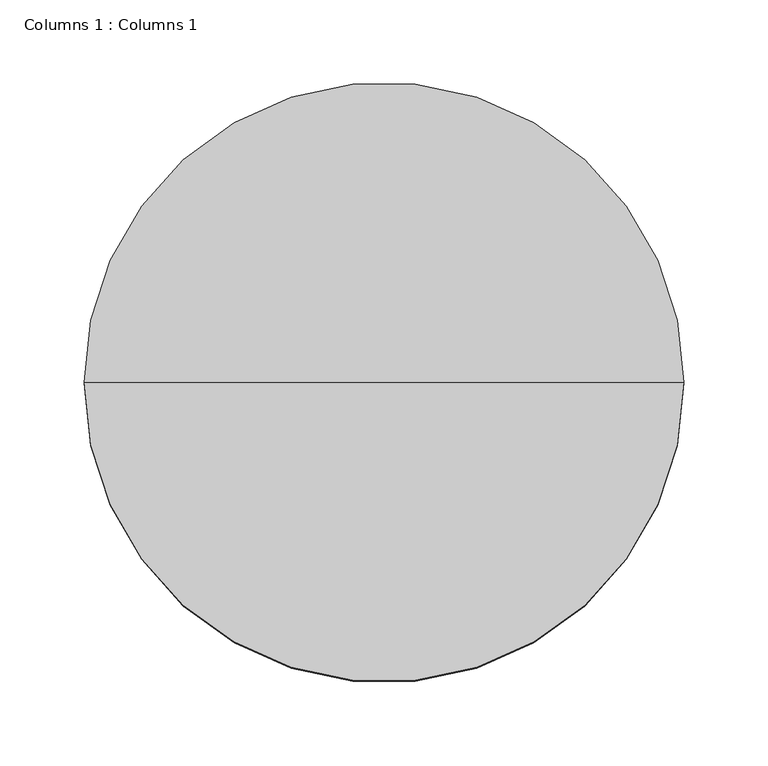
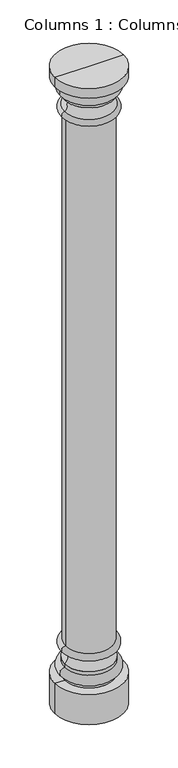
"""IFC4 building model written with IfcOpenShell, lengths in millimetres: column geometry, Columns 1 : Columns 1."""

from ifc_helpers import new_model, si_unit, point, frame, origin, place, context, project, spatial, circle_curve, ellipse_curve, trimmed, source, transform, mapped, element, save
from ifc_brep_helpers import plane_surface, cylinder_surface, revolved_surface, advanced_brep


def columns_1_columns_1_2be72e42(model_context):
    return source(origin(), model_context, "Body", "AdvancedBrep", [
        advanced_brep(
        [(-7450.840576, 11037.2770101, 3626.6477675), (-7095.240576, 11037.2770101, 3626.6477675), (-7095.240576, 11037.2770101, 3575.8477675), (-7450.840576, 11037.2770101, 3575.8477675), (-7273.040576, 11037.2770101, 3626.6477675), (-7450.840576, 11037.2770101, 160.9345147), (-7095.240576, 11037.2770101, 160.9345147), (-7273.040576, 11037.2770101, 160.9345147), (-7450.840576, 11037.2770101, 324.6477676), (-7095.240576, 11037.2770101, 324.6477676), (-7399.2461061, 11037.2770101, 324.6477676), (-7146.8350459, 11037.2770101, 324.6477676), (-7399.2461061, 11037.2770101, 343.7101955), (-7146.8350459, 11037.2770101, 343.7101955), (-7399.2461061, 11037.2770101, 394.4853397), (-7146.8350459, 11037.2770101, 394.4853397), (-7399.2461061, 11037.2770101, 413.5477676), (-7146.8350459, 11037.2770101, 413.5477676), (-7393.690576, 11037.2770101, 477.0477676), (-7152.390576, 11037.2770101, 477.0477676), (-7393.690576, 11037.2770101, 508.7757334), (-7152.390576, 11037.2770101, 508.7757334), (-7393.690576, 11037.2770101, 3391.7198017), (-7152.390576, 11037.2770101, 3391.7198017), (-7400.040576, 11037.2770101, 3391.7198017), (-7146.040576, 11037.2770101, 3391.7198017), (-7400.040576, 11037.2770101, 3423.4477675), (-7146.040576, 11037.2770101, 3423.4477675), (-7400.040576, 11037.2770101, 3486.9477675), (-7146.040576, 11037.2770101, 3486.9477675), (-7400.040576, 11037.2770101, 3505.9977675), (-7146.040576, 11037.2770101, 3505.9977675), (-7400.040576, 11037.2770101, 3556.7977675), (-7146.040576, 11037.2770101, 3556.7977675), (-7400.040576, 11037.2770101, 3575.8477675), (-7146.040576, 11037.2770101, 3575.8477675)],
        [
            (0, 1, circle_curve(frame((-7273.040576, 11037.2770101, 3626.6477675), z_axis=(0.0, 0.0, -1.0), x_axis=(1.0, 0.0, 0.0)), 177.8)),
            (1, 2),
            (2, 3, circle_curve(frame((-7273.040576, 11037.2770101, 3575.8477675), z_axis=(0.0, 0.0, 1.0), x_axis=(1.0, 0.0, 0.0)), 177.8)),
            (3, 0),
            (1, 0, circle_curve(frame((-7273.040576, 11037.2770101, 3626.6477675), z_axis=(0.0, 0.0, -1.0), x_axis=(1.0, 0.0, 0.0)), 177.8)),
            (3, 2, circle_curve(frame((-7273.040576, 11037.2770101, 3575.8477675), z_axis=(0.0, 0.0, 1.0), x_axis=(1.0, 0.0, 0.0)), 177.8)),
            (4, 1),
            (0, 4),
            (5, 6, circle_curve(frame((-7273.040576, 11037.2770101, 160.9345147), z_axis=(0.0, 0.0, -1.0), x_axis=(1.0, 0.0, 0.0)), 177.8)),
            (6, 7),
            (7, 5),
            (6, 5, circle_curve(frame((-7273.040576, 11037.2770101, 160.9345147), z_axis=(0.0, 0.0, -1.0), x_axis=(1.0, 0.0, 0.0)), 177.8)),
            (8, 9, circle_curve(frame((-7273.040576, 11037.2770101, 324.6477676), z_axis=(0.0, 0.0, -1.0), x_axis=(1.0, 0.0, 0.0)), 177.8)),
            (9, 6),
            (5, 8),
            (9, 8, circle_curve(frame((-7273.040576, 11037.2770101, 324.6477676), z_axis=(0.0, 0.0, -1.0), x_axis=(1.0, 0.0, 0.0)), 177.8)),
            (10, 11, circle_curve(frame((-7273.040576, 11037.2770101, 324.6477676), z_axis=(0.0, 0.0, -1.0), x_axis=(1.0, 0.0, 0.0)), 126.2055301)),
            (11, 9),
            (8, 10),
            (11, 10, circle_curve(frame((-7273.040576, 11037.2770101, 324.6477676), z_axis=(0.0, 0.0, -1.0), x_axis=(1.0, 0.0, 0.0)), 126.2055301)),
            (12, 13, circle_curve(frame((-7273.040576, 11037.2770101, 343.7101955), z_axis=(0.0, 0.0, -1.0), x_axis=(1.0, 0.0, 0.0)), 126.2055301)),
            (13, 11),
            (10, 12),
            (13, 12, circle_curve(frame((-7273.040576, 11037.2770101, 343.7101955), z_axis=(0.0, 0.0, -1.0), x_axis=(1.0, 0.0, 0.0)), 126.2055301)),
            (14, 15, circle_curve(frame((-7273.040576, 11037.2770101, 394.4853397), z_axis=(0.0, 0.0, -1.0), x_axis=(1.0, 0.0, 0.0)), 126.2055301)),
            (15, 13, circle_curve(frame((-7146.8350459, 11037.2770101, 369.0977676), z_axis=(0.0, 1.0, 0.0), x_axis=(-1.0, 0.0, 0.0)), 25.3875721)),
            (12, 14, circle_curve(frame((-7399.2461061, 11037.2770101, 369.0977676), z_axis=(0.0, 1.0, 0.0), x_axis=(1.0, 0.0, 0.0)), 25.3875721)),
            (15, 14, circle_curve(frame((-7273.040576, 11037.2770101, 394.4853397), z_axis=(0.0, 0.0, -1.0), x_axis=(1.0, 0.0, 0.0)), 126.2055301)),
            (16, 17, circle_curve(frame((-7273.040576, 11037.2770101, 413.5477676), z_axis=(0.0, 0.0, -1.0), x_axis=(1.0, 0.0, 0.0)), 126.2055301)),
            (17, 15),
            (14, 16),
            (17, 16, circle_curve(frame((-7273.040576, 11037.2770101, 413.5477676), z_axis=(0.0, 0.0, -1.0), x_axis=(1.0, 0.0, 0.0)), 126.2055301)),
            (18, 19, circle_curve(frame((-7273.040576, 11037.2770101, 477.0477676), z_axis=(0.0, 0.0, -1.0), x_axis=(1.0, 0.0, 0.0)), 120.65)),
            (19, 17, circle_curve(frame((-7118.5580636, 11037.2770101, 448.014706), z_axis=(0.0, -1.0, 0.0), x_axis=(-1.0, 0.0, 0.0)), 44.5820319)),
            (16, 18, circle_curve(frame((-7427.5230884, 11037.2770101, 448.014706), z_axis=(0.0, -1.0, 0.0), x_axis=(1.0, 0.0, 0.0)), 44.5820319)),
            (19, 18, circle_curve(frame((-7273.040576, 11037.2770101, 477.0477676), z_axis=(0.0, 0.0, -1.0), x_axis=(1.0, 0.0, 0.0)), 120.65)),
            (20, 21, circle_curve(frame((-7273.040576, 11037.2770101, 508.7757334), z_axis=(0.0, 0.0, -1.0), x_axis=(1.0, 0.0, 0.0)), 120.65)),
            (21, 19, circle_curve(frame((-7147.070653, 11037.2770101, 492.9117505), z_axis=(0.0, 1.0, 0.0), x_axis=(-1.0, 0.0, 0.0)), 16.7322304)),
            (18, 20, circle_curve(frame((-7399.010499, 11037.2770101, 492.9117505), z_axis=(0.0, 1.0, 0.0), x_axis=(1.0, 0.0, 0.0)), 16.7322304)),
            (21, 20, circle_curve(frame((-7273.040576, 11037.2770101, 508.7757334), z_axis=(0.0, 0.0, -1.0), x_axis=(1.0, 0.0, 0.0)), 120.65)),
            (22, 23, circle_curve(frame((-7273.040576, 11037.2770101, 3391.7198017), z_axis=(0.0, 0.0, -1.0), x_axis=(1.0, 0.0, 0.0)), 120.65)),
            (23, 21),
            (20, 22),
            (23, 22, circle_curve(frame((-7273.040576, 11037.2770101, 3391.7198017), z_axis=(0.0, 0.0, -1.0), x_axis=(1.0, 0.0, 0.0)), 120.65)),
            (24, 25, circle_curve(frame((-7273.040576, 11037.2770101, 3391.7198017), z_axis=(0.0, 0.0, -1.0), x_axis=(1.0, 0.0, 0.0)), 127.0)),
            (25, 23),
            (22, 24),
            (25, 24, circle_curve(frame((-7273.040576, 11037.2770101, 3391.7198017), z_axis=(0.0, 0.0, -1.0), x_axis=(1.0, 0.0, 0.0)), 127.0)),
            (26, 27, circle_curve(frame((-7273.040576, 11037.2770101, 3423.4477675), z_axis=(0.0, 0.0, -1.0), x_axis=(1.0, 0.0, 0.0)), 127.0)),
            (27, 25, circle_curve(frame((-7146.040576, 11037.2770101, 3407.5837846), z_axis=(0.0, 1.0, 0.0), x_axis=(-1.0, 0.0, 0.0)), 15.8639829)),
            (24, 26, circle_curve(frame((-7400.040576, 11037.2770101, 3407.5837846), z_axis=(0.0, 1.0, 0.0), x_axis=(1.0, 0.0, 0.0)), 15.8639829)),
            (27, 26, circle_curve(frame((-7273.040576, 11037.2770101, 3423.4477675), z_axis=(0.0, 0.0, -1.0), x_axis=(1.0, 0.0, 0.0)), 127.0)),
            (28, 29, circle_curve(frame((-7273.040576, 11037.2770101, 3486.9477675), z_axis=(0.0, 0.0, -1.0), x_axis=(1.0, 0.0, 0.0)), 127.0)),
            (29, 27, circle_curve(frame((-7120.0730502, 11037.2770101, 3455.1977675), z_axis=(0.0, -1.0, 0.0), x_axis=(-1.0, 0.0, 0.0)), 41.0167636)),
            (26, 28, circle_curve(frame((-7426.0081018, 11037.2770101, 3455.1977675), z_axis=(0.0, -1.0, 0.0), x_axis=(1.0, 0.0, 0.0)), 41.0167636)),
            (29, 28, circle_curve(frame((-7273.040576, 11037.2770101, 3486.9477675), z_axis=(0.0, 0.0, -1.0), x_axis=(1.0, 0.0, 0.0)), 127.0)),
            (30, 31, circle_curve(frame((-7273.040576, 11037.2770101, 3505.9977675), z_axis=(0.0, 0.0, -1.0), x_axis=(1.0, 0.0, 0.0)), 127.0)),
            (31, 29),
            (28, 30),
            (31, 30, circle_curve(frame((-7273.040576, 11037.2770101, 3505.9977675), z_axis=(0.0, 0.0, -1.0), x_axis=(1.0, 0.0, 0.0)), 127.0)),
            (32, 33, circle_curve(frame((-7273.040576, 11037.2770101, 3556.7977675), z_axis=(0.0, 0.0, -1.0), x_axis=(1.0, 0.0, 0.0)), 127.0)),
            (33, 31, circle_curve(frame((-7146.040576, 11037.2770101, 3531.3977675), z_axis=(0.0, 1.0, 0.0), x_axis=(-1.0, 0.0, 0.0)), 25.4)),
            (30, 32, circle_curve(frame((-7400.040576, 11037.2770101, 3531.3977675), z_axis=(0.0, 1.0, 0.0), x_axis=(1.0, 0.0, 0.0)), 25.4)),
            (33, 32, circle_curve(frame((-7273.040576, 11037.2770101, 3556.7977675), z_axis=(0.0, 0.0, -1.0), x_axis=(1.0, 0.0, 0.0)), 127.0)),
            (34, 35, circle_curve(frame((-7273.040576, 11037.2770101, 3575.8477675), z_axis=(0.0, 0.0, -1.0), x_axis=(1.0, 0.0, 0.0)), 127.0)),
            (35, 33),
            (32, 34),
            (35, 34, circle_curve(frame((-7273.040576, 11037.2770101, 3575.8477675), z_axis=(0.0, 0.0, -1.0), x_axis=(1.0, 0.0, 0.0)), 127.0)),
            (2, 35),
            (34, 3),
        ],
        [
            cylinder_surface(frame((-7273.040576, 11037.2770101, 273.8477676), z_axis=(0.0, 0.0, 1.0), x_axis=(1.0, 0.0, 0.0)), 177.8),
            plane_surface(frame((-7273.040576, 11037.2770101, 3626.6477675), z_axis=(0.0, 0.0, 1.0), x_axis=(1.0, 0.0, 0.0))),
            plane_surface(frame((-7273.040576, 11037.2770101, 160.9345147), z_axis=(0.0, 0.0, -1.0), x_axis=(1.0, 0.0, 0.0))),
            plane_surface(frame((-7273.040576, 11037.2770101, 324.6477676), z_axis=(0.0, 0.0, 1.0), x_axis=(1.0, 0.0, 0.0))),
            cylinder_surface(frame((-7273.040576, 11037.2770101, 273.8477676), z_axis=(0.0, 0.0, 1.0), x_axis=(1.0, 0.0, 0.0)), 126.2055301),
            revolved_surface(trimmed(ellipse_curve(frame((-7146.8350459, 11037.2770101, 369.0977676), z_axis=(0.0, -1.0, 0.0), x_axis=(-1.0, 0.0, 0.0)), 25.3875721, 25.3875721), [point((-7146.8350459, 11037.2770101, 343.7101955))], [point((-7146.8350459, 11037.2770101, 394.4853397))], True, "CARTESIAN"), (-7273.040576, 11037.2770101, 273.8477676), (0.0, 0.0, 1.0)),
            revolved_surface(trimmed(ellipse_curve(frame((-7118.5580636, 11037.2770101, 448.014706), z_axis=(0.0, 1.0, 0.0), x_axis=(-1.0, 0.0, 0.0)), 44.5820319, 44.5820319), [point((-7146.8350459, 11037.2770101, 413.5477676))], [point((-7152.390576, 11037.2770101, 477.0477676))], True, "CARTESIAN"), (-7273.040576, 11037.2770101, 273.8477676), (0.0, 0.0, 1.0)),
            revolved_surface(trimmed(ellipse_curve(frame((-7147.070653, 11037.2770101, 492.9117505), z_axis=(0.0, -1.0, 0.0), x_axis=(-1.0, 0.0, 0.0)), 16.7322304, 16.7322304), [point((-7152.390576, 11037.2770101, 477.0477676))], [point((-7152.390576, 11037.2770101, 508.7757334))], True, "CARTESIAN"), (-7273.040576, 11037.2770101, 273.8477676), (0.0, 0.0, 1.0)),
            cylinder_surface(frame((-7273.040576, 11037.2770101, 273.8477676), z_axis=(0.0, 0.0, 1.0), x_axis=(1.0, 0.0, 0.0)), 120.65),
            plane_surface(frame((-7273.040576, 11037.2770101, 3391.7198017), z_axis=(0.0, 0.0, -1.0), x_axis=(1.0, 0.0, 0.0))),
            revolved_surface(trimmed(ellipse_curve(frame((-7146.040576, 11037.2770101, 3407.5837846), z_axis=(0.0, -1.0, 0.0), x_axis=(-1.0, 0.0, 0.0)), 15.8639829, 15.8639829), [point((-7146.040576, 11037.2770101, 3391.7198017))], [point((-7146.040576, 11037.2770101, 3423.4477675))], True, "CARTESIAN"), (-7273.040576, 11037.2770101, 273.8477676), (0.0, 0.0, 1.0)),
            revolved_surface(trimmed(ellipse_curve(frame((-7120.0730502, 11037.2770101, 3455.1977675), z_axis=(0.0, 1.0, 0.0), x_axis=(-1.0, 0.0, 0.0)), 41.0167636, 41.0167636), [point((-7146.040576, 11037.2770101, 3423.4477675))], [point((-7146.040576, 11037.2770101, 3486.9477675))], True, "CARTESIAN"), (-7273.040576, 11037.2770101, 273.8477676), (0.0, 0.0, 1.0)),
            cylinder_surface(frame((-7273.040576, 11037.2770101, 273.8477676), z_axis=(0.0, 0.0, 1.0), x_axis=(1.0, 0.0, 0.0)), 127.0),
            revolved_surface(trimmed(ellipse_curve(frame((-7146.040576, 11037.2770101, 3531.3977675), z_axis=(0.0, -1.0, 0.0), x_axis=(-1.0, 0.0, 0.0)), 25.4, 25.4), [point((-7146.040576, 11037.2770101, 3505.9977675))], [point((-7146.040576, 11037.2770101, 3556.7977675))], True, "CARTESIAN"), (-7273.040576, 11037.2770101, 273.8477676), (0.0, 0.0, 1.0)),
            plane_surface(frame((-7273.040576, 11037.2770101, 3575.8477675), z_axis=(0.0, 0.0, -1.0), x_axis=(1.0, 0.0, 0.0))),
        ],
        [
            (0, [[1, 2, 3, 4]]),
            (0, [[5, -4, 6, -2]]),
            (1, [[7, -1, 8]]),
            (1, [[-8, -5, -7]]),
            (2, [[9, 10, 11]]),
            (2, [[12, -11, -10]]),
            (0, [[13, 14, -9, 15]]),
            (0, [[16, -15, -12, -14]]),
            (3, [[17, 18, -13, 19]]),
            (3, [[20, -19, -16, -18]]),
            (4, [[21, 22, -17, 23]]),
            (4, [[24, -23, -20, -22]]),
            (5, [[25, 26, -21, 27]]),
            (5, [[28, -27, -24, -26]]),
            (4, [[29, 30, -25, 31]]),
            (4, [[32, -31, -28, -30]]),
            (6, [[33, 34, -29, 35]]),
            (6, [[36, -35, -32, -34]]),
            (7, [[37, 38, -33, 39]]),
            (7, [[40, -39, -36, -38]]),
            (8, [[41, 42, -37, 43]]),
            (8, [[44, -43, -40, -42]]),
            (9, [[45, 46, -41, 47]]),
            (9, [[48, -47, -44, -46]]),
            (10, [[49, 50, -45, 51]]),
            (10, [[52, -51, -48, -50]]),
            (11, [[53, 54, -49, 55]]),
            (11, [[56, -55, -52, -54]]),
            (12, [[57, 58, -53, 59]]),
            (12, [[60, -59, -56, -58]]),
            (13, [[61, 62, -57, 63]]),
            (13, [[64, -63, -60, -62]]),
            (12, [[65, 66, -61, 67]]),
            (12, [[68, -67, -64, -66]]),
            (14, [[-3, 69, -65, 70]]),
            (14, [[-6, -70, -68, -69]]),
        ],
    ),
    ])


if __name__ == "__main__":
    model = new_model("IFC4")
    model_context = context("Model", 3, world=origin())
    ifc_project = project(units=[si_unit("LENGTHUNIT", "METRE", prefix="MILLI")], contexts=[model_context])
    site = spatial("IfcSite", under=ifc_project)
    building = spatial("IfcBuilding", under=site)
    placement = place(None, origin())
    columns_1_columns_1_shape = columns_1_columns_1_2be72e42(model_context)
    element("IfcColumn", 1, ObjectType="Columns 1 : Columns 1", at=placement, inside=building, context=model_context, shape_type="MappedRepresentation", body=[
        mapped(columns_1_columns_1_shape, transform((0.0, 0.0, 0.0), x_axis=(1.0, 0.0, 0.0), y_axis=(0.0, 1.0, 0.0), z_axis=(0.0, 0.0, 1.0))),
    ])
    save(model, "model.ifc")
